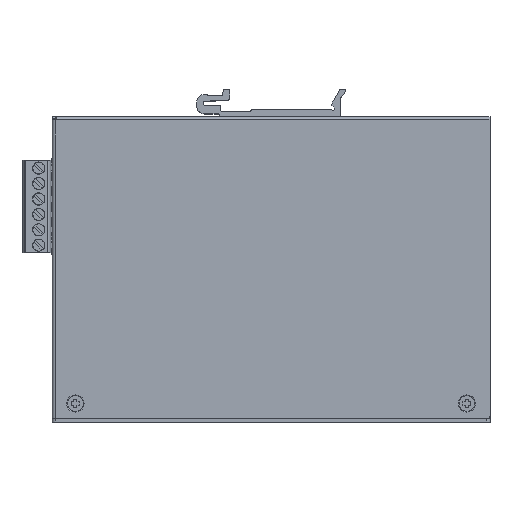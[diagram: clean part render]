
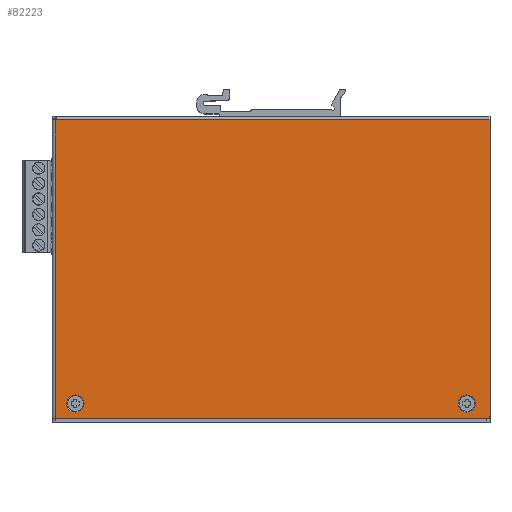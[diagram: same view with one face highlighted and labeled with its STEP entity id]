
A CAD part, top view. The second image highlights one B-rep face of the part: STEP entity #82223.
In plain terms, the highlighted planar face has unit normal (0, 0, 1).
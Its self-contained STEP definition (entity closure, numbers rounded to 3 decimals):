
#77635=CARTESIAN_POINT('',(132.819,-86.88,37.9));
#77636=DIRECTION('',(0.,0.,-1.));
#77637=DIRECTION('',(1.,0.,0.));
#77638=AXIS2_PLACEMENT_3D('',#77635,#77636,#77637);
#77640=DIRECTION('',(1.,0.,0.));
#77641=VECTOR('',#77640,0.2);
#77642=CARTESIAN_POINT('',(-7.181,9.12,37.9));
#77643=LINE('',#77642,#77641);
#77644=CARTESIAN_POINT('',(126.319,-82.88,37.9));
#77645=DIRECTION('',(0.,0.,1.));
#77646=DIRECTION('',(1.,0.,0.));
#77647=AXIS2_PLACEMENT_3D('',#77644,#77645,#77646);
#77649=CARTESIAN_POINT('',(126.319,-82.88,37.9));
#77650=DIRECTION('',(0.,0.,1.));
#77651=DIRECTION('',(0.,1.,0.));
#77652=AXIS2_PLACEMENT_3D('',#77649,#77650,#77651);
#77654=CARTESIAN_POINT('',(126.319,-82.88,37.9));
#77655=DIRECTION('',(0.,0.,1.));
#77656=DIRECTION('',(-1.,0.,0.));
#77657=AXIS2_PLACEMENT_3D('',#77654,#77655,#77656);
#77659=CARTESIAN_POINT('',(126.319,-82.88,37.9));
#77660=DIRECTION('',(0.,0.,1.));
#77661=DIRECTION('',(0.,-1.,0.));
#77662=AXIS2_PLACEMENT_3D('',#77659,#77660,#77661);
#77664=CARTESIAN_POINT('',(-0.681,-82.88,37.9));
#77665=DIRECTION('',(0.,0.,1.));
#77666=DIRECTION('',(1.,0.,0.));
#77667=AXIS2_PLACEMENT_3D('',#77664,#77665,#77666);
#77669=CARTESIAN_POINT('',(-0.681,-82.88,37.9));
#77670=DIRECTION('',(0.,0.,1.));
#77671=DIRECTION('',(0.,1.,0.));
#77672=AXIS2_PLACEMENT_3D('',#77669,#77670,#77671);
#77674=CARTESIAN_POINT('',(-0.681,-82.88,37.9));
#77675=DIRECTION('',(0.,0.,1.));
#77676=DIRECTION('',(-1.,0.,0.));
#77677=AXIS2_PLACEMENT_3D('',#77674,#77675,#77676);
#77679=CARTESIAN_POINT('',(-0.681,-82.88,37.9));
#77680=DIRECTION('',(0.,0.,1.));
#77681=DIRECTION('',(0.,-1.,0.));
#77682=AXIS2_PLACEMENT_3D('',#77679,#77680,#77681);
#77692=DIRECTION('',(0.,1.,0.));
#77693=VECTOR('',#77692,96.);
#77694=CARTESIAN_POINT('',(133.819,-86.88,37.9));
#77695=LINE('',#77694,#77693);
#77713=DIRECTION('',(-1.,0.,0.));
#77714=VECTOR('',#77713,140.8);
#77715=CARTESIAN_POINT('',(133.819,9.12,37.9));
#77716=LINE('',#77715,#77714);
#78154=DIRECTION('',(0.,-1.,0.));
#78155=VECTOR('',#78154,97.);
#78156=CARTESIAN_POINT('',(-7.181,9.12,37.9));
#78157=LINE('',#78156,#78155);
#80796=DIRECTION('',(1.,0.,0.));
#80797=VECTOR('',#80796,140.);
#80798=CARTESIAN_POINT('',(-7.181,-87.88,37.9));
#80799=LINE('',#80798,#80797);
#81160=CARTESIAN_POINT('',(133.819,-86.88,37.9));
#81161=CARTESIAN_POINT('',(132.819,-87.88,37.9));
#81162=VERTEX_POINT('',#81160);
#81163=VERTEX_POINT('',#81161);
#81164=CARTESIAN_POINT('',(-7.181,-87.88,37.9));
#81165=VERTEX_POINT('',#81164);
#81166=CARTESIAN_POINT('',(-7.181,9.12,37.9));
#81167=VERTEX_POINT('',#81166);
#81168=CARTESIAN_POINT('',(-6.981,9.12,37.9));
#81169=VERTEX_POINT('',#81168);
#81170=CARTESIAN_POINT('',(133.819,9.12,37.9));
#81171=VERTEX_POINT('',#81170);
#81172=CARTESIAN_POINT('',(129.108,-82.88,37.9));
#81173=CARTESIAN_POINT('',(126.319,-80.091,37.9));
#81174=VERTEX_POINT('',#81172);
#81175=VERTEX_POINT('',#81173);
#81176=CARTESIAN_POINT('',(123.53,-82.88,37.9));
#81177=VERTEX_POINT('',#81176);
#81178=CARTESIAN_POINT('',(126.319,-85.669,37.9));
#81179=VERTEX_POINT('',#81178);
#81180=CARTESIAN_POINT('',(2.108,-82.88,37.9));
#81181=CARTESIAN_POINT('',(-0.681,-80.091,37.9));
#81182=VERTEX_POINT('',#81180);
#81183=VERTEX_POINT('',#81181);
#81184=CARTESIAN_POINT('',(-3.47,-82.88,37.9));
#81185=VERTEX_POINT('',#81184);
#81186=CARTESIAN_POINT('',(-0.681,-85.669,37.9));
#81187=VERTEX_POINT('',#81186);
#82184=CARTESIAN_POINT('',(0.,0.,37.9));
#82185=DIRECTION('',(0.,0.,1.));
#82186=DIRECTION('',(0.,-1.,0.));
#82187=AXIS2_PLACEMENT_3D('',#82184,#82185,#82186);
#82188=PLANE('',#82187);
#82190=ORIENTED_EDGE('',*,*,#82189,.T.);
#82192=ORIENTED_EDGE('',*,*,#82191,.F.);
#82194=ORIENTED_EDGE('',*,*,#82193,.F.);
#82196=ORIENTED_EDGE('',*,*,#82195,.T.);
#82198=ORIENTED_EDGE('',*,*,#82197,.F.);
#82200=ORIENTED_EDGE('',*,*,#82199,.F.);
#82201=EDGE_LOOP('',(#82190,#82192,#82194,#82196,#82198,#82200));
#82202=FACE_OUTER_BOUND('',#82201,.F.);
#82204=ORIENTED_EDGE('',*,*,#82203,.T.);
#82206=ORIENTED_EDGE('',*,*,#82205,.T.);
#82208=ORIENTED_EDGE('',*,*,#82207,.T.);
#82210=ORIENTED_EDGE('',*,*,#82209,.T.);
#82211=EDGE_LOOP('',(#82204,#82206,#82208,#82210));
#82212=FACE_BOUND('',#82211,.F.);
#82214=ORIENTED_EDGE('',*,*,#82213,.T.);
#82216=ORIENTED_EDGE('',*,*,#82215,.T.);
#82218=ORIENTED_EDGE('',*,*,#82217,.T.);
#82220=ORIENTED_EDGE('',*,*,#82219,.T.);
#82221=EDGE_LOOP('',(#82214,#82216,#82218,#82220));
#82222=FACE_BOUND('',#82221,.F.);
#77639=CIRCLE('',#77638,1.);
#77648=CIRCLE('',#77647,2.789);
#77653=CIRCLE('',#77652,2.789);
#77658=CIRCLE('',#77657,2.789);
#77663=CIRCLE('',#77662,2.789);
#77668=CIRCLE('',#77667,2.789);
#77673=CIRCLE('',#77672,2.789);
#77678=CIRCLE('',#77677,2.789);
#77683=CIRCLE('',#77682,2.789);
#82189=EDGE_CURVE('',#81162,#81163,#77639,.T.);
#82191=EDGE_CURVE('',#81165,#81163,#80799,.T.);
#82193=EDGE_CURVE('',#81167,#81165,#78157,.T.);
#82195=EDGE_CURVE('',#81167,#81169,#77643,.T.);
#82197=EDGE_CURVE('',#81171,#81169,#77716,.T.);
#82199=EDGE_CURVE('',#81162,#81171,#77695,.T.);
#82203=EDGE_CURVE('',#81174,#81175,#77648,.T.);
#82205=EDGE_CURVE('',#81175,#81177,#77653,.T.);
#82207=EDGE_CURVE('',#81177,#81179,#77658,.T.);
#82209=EDGE_CURVE('',#81179,#81174,#77663,.T.);
#82213=EDGE_CURVE('',#81182,#81183,#77668,.T.);
#82215=EDGE_CURVE('',#81183,#81185,#77673,.T.);
#82217=EDGE_CURVE('',#81185,#81187,#77678,.T.);
#82219=EDGE_CURVE('',#81187,#81182,#77683,.T.);
#82223=ADVANCED_FACE('',(#82202,#82212,#82222),#82188,.T.);
